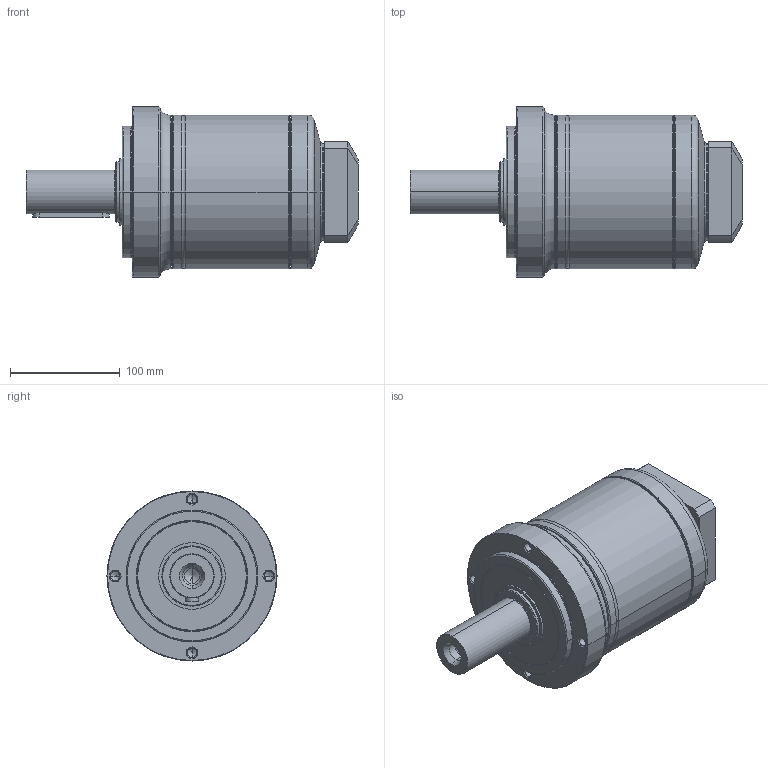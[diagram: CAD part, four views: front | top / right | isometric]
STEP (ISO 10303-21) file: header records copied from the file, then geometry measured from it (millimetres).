
FILE_DESCRIPTION((''),'2;1');
FILE_NAME('PE2-155_2ST_19-P0411400101_ASM','2017-06-03T',('d01943'),(''),'PRO/ENGINEER BY PARAMETRIC TECHNOLOGY CORPORATION, 2008410','PRO/ENGINEER BY PARAMETRIC TECHNOLOGY CORPORATION, 2008410','');
FILE_SCHEMA(('CONFIG_CONTROL_DESIGN'));
Length unit declared in the file: millimetre
Products named in the file (9): P1323510001; P0251500001; P1324500001; P0350501001; P0941500001; P0503400008; P0411400101; P1702500001; PE2-155_2ST_19-P0411400101_ASM
Assembly tree (8 placements, depth 2):
  PE2-155_2ST_19-P0411400101_ASM
    P1323510001
    P0251500001
    P1324500001
    P0350501001
    P0941500001
    P0503400008
    P0411400101
    P1702500001
Bounding box: 302.5 x 155 x 155 mm (x, y, z)
Volume: 2153506.8 mm3; surface area: 318779 mm2
Topology: 8 solids, 8 shells, 479 faces, 1047 edges, 598 vertices
Faces by surface type: cone 142, cylinder 142, torus 102, plane 77, bspline 16
Entity records: 17754 total; most frequent: CARTESIAN_POINT 7028, DIRECTION 2451, ORIENTED_EDGE 2030, AXIS2_PLACEMENT_3D 1053, EDGE_CURVE 1015, VERTEX_POINT 598, CIRCLE 573, EDGE_LOOP 541
